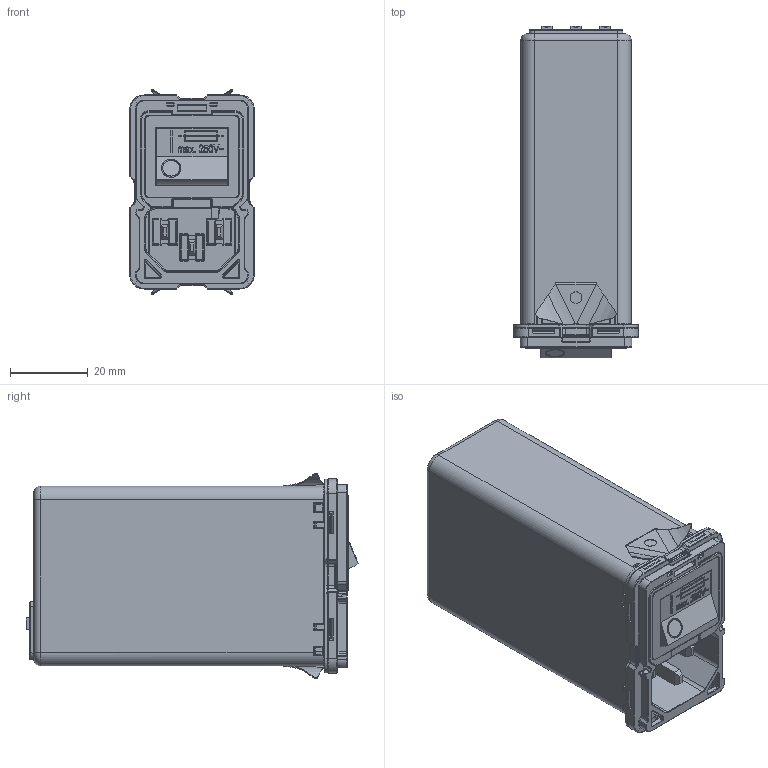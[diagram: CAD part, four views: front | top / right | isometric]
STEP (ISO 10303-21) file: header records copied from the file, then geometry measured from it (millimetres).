
FILE_DESCRIPTION((''),'2;1');
FILE_NAME('H:\02_Projects\A_Others\Z_Support\Luis\Cherry_STP\Step_Files\2 Stage\2_stage_spring_cage_vertical_snap.stp','2012-07-26T14:54:08',('Samuel.Meier'),(''),'Autodesk Inventor 2010','Autodesk Inventor 2010','');
FILE_SCHEMA(('AUTOMOTIVE_DESIGN { 1 2 10303 214 0 1 1 1 }'));
Length unit declared in the file: millimetre
Products named in the file (1): 2_stage_spring_cage_vertical_snap
Bounding box: 32.1 x 85.34 x 52.7 mm (x, y, z)
Surface area: 69436.2 mm2 (no closed solid volume)
Topology: 0 solids, 13 shells, 3286 faces, 8798 edges, 5458 vertices
Faces by surface type: plane 1382, cylinder 1218, bspline 476, torus 95, sphere 91, cone 24
Full cylindrical faces by diameter (mm): 1 x8, 1.1 x10, 1.2 x4, 1.4 x1, 1.5 x3, 1.7 x2, 2.7 x1, 3 x2, 3.6 x2, 4 x2, 6.5 x1, 7.2 x2, 8.2 x2
Entity records: 112277 total; most frequent: CARTESIAN_POINT 28183, ORIENTED_EDGE 17308, DIRECTION 16586, EDGE_CURVE 8654, AXIS2_PLACEMENT_3D 5739, VERTEX_POINT 5447, VECTOR 5108, LINE 5108
